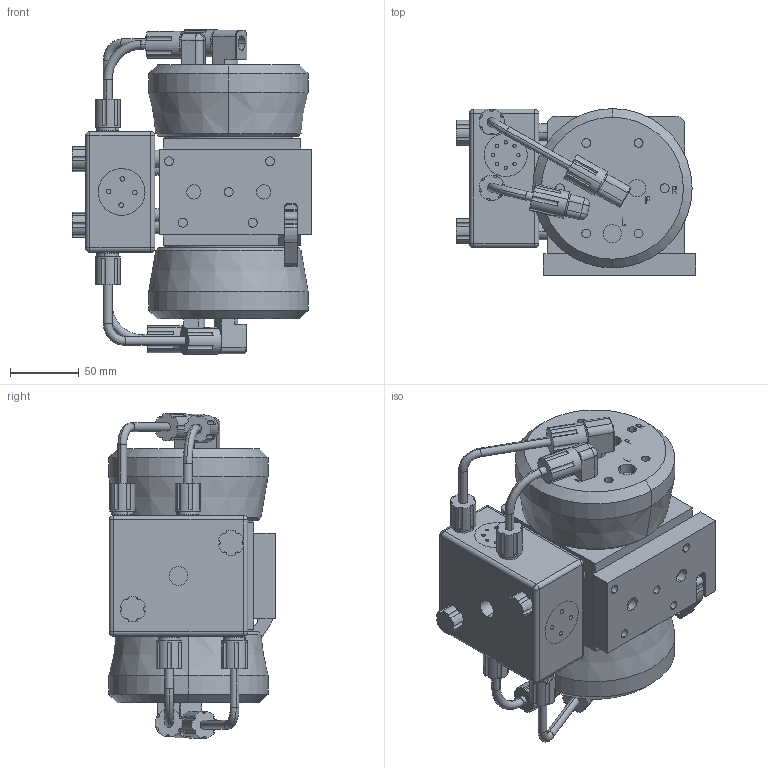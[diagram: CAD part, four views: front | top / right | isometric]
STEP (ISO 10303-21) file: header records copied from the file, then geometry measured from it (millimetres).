
FILE_DESCRIPTION (( 'STEP AP214' ), '1' );
FILE_NAME ('psh030-solid-model.STEP', '2012-11-26T20:43:53', ( '' ), ( '' ), 'SwSTEP 2.0', 'SolidWorks 2012', '' );
FILE_SCHEMA (( 'AUTOMOTIVE_DESIGN' ));
Length unit declared in the file: inch
Products named in the file (1): psh030-solid-model
Bounding box: 174.65 x 121.36 x 236.58 mm (x, y, z)
Volume: 2430977.1 mm3; surface area: 184016.1 mm2
Topology: 1 solids, 2 shells, 895 faces, 2260 edges, 1470 vertices
Faces by surface type: plane 413, cylinder 348, bspline 88, cone 26, sphere 12, torus 8
Entity records: 33280 total; most frequent: CARTESIAN_POINT 9439, DIRECTION 4524, ORIENTED_EDGE 4496, EDGE_CURVE 2248, AXIS2_PLACEMENT_3D 1660, VERTEX_POINT 1470, VECTOR 1204, LINE 1204
